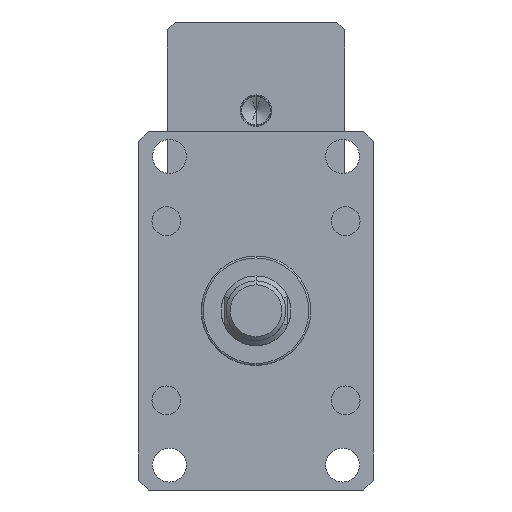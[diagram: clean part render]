
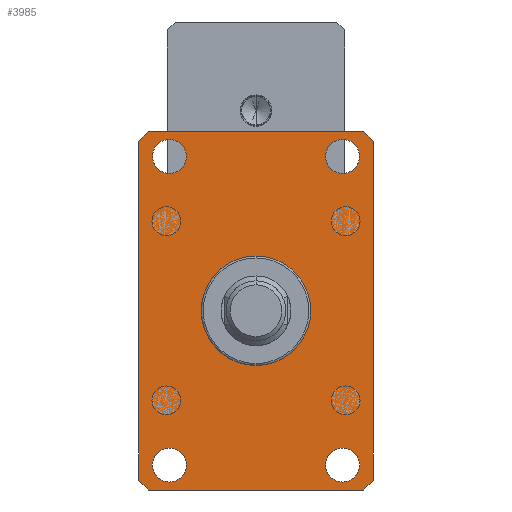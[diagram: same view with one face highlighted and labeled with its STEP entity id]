
A CAD part, front view. The second image highlights one B-rep face of the part: STEP entity #3985.
In plain terms, the highlighted planar face has unit normal (0, -1, 0).
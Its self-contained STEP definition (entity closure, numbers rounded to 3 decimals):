
#294 = CARTESIAN_POINT ( 'NONE',  ( 59., -55., 85. ) ) ;
#341 = VECTOR ( 'NONE', #6575, 1000. ) ;
#400 = FACE_BOUND ( 'NONE', #3310, .T. ) ;
#619 = DIRECTION ( 'NONE',  ( 0., 0., 1. ) ) ;
#774 = EDGE_CURVE ( 'NONE', #7395, #7995, #2491, .T. ) ;
#776 = VERTEX_POINT ( 'NONE', #2550 ) ;
#921 = EDGE_CURVE ( 'NONE', #8877, #776, #8723, .T. ) ;
#1125 = VECTOR ( 'NONE', #10446, 1000. ) ;
#1144 = EDGE_CURVE ( 'NONE', #2349, #8805, #4298, .T. ) ;
#1229 = ORIENTED_EDGE ( 'NONE', *, *, #1874, .T. ) ;
#1433 = DIRECTION ( 'NONE',  ( 0., 1., 0. ) ) ;
#1459 = CIRCLE ( 'NONE', #4853, 8.5 ) ;
#1578 = ORIENTED_EDGE ( 'NONE', *, *, #2112, .T. ) ;
#1617 = EDGE_CURVE ( 'NONE', #8733, #1827, #6604, .T. ) ;
#1778 = VECTOR ( 'NONE', #2406, 1000. ) ;
#1802 = EDGE_CURVE ( 'NONE', #776, #8877, #11882, .T. ) ;
#1827 = VERTEX_POINT ( 'NONE', #10290 ) ;
#1857 = EDGE_CURVE ( 'NONE', #8805, #2349, #1459, .T. ) ;
#1874 = EDGE_CURVE ( 'NONE', #1827, #8733, #11315, .T. ) ;
#1877 = CARTESIAN_POINT ( 'NONE',  ( 43.5, -55., 86. ) ) ;
#1924 = EDGE_CURVE ( 'NONE', #12249, #7543, #8348, .T. ) ;
#1995 = CARTESIAN_POINT ( 'NONE',  ( -43.5, -55., 86. ) ) ;
#1999 = EDGE_CURVE ( 'NONE', #7543, #12343, #12524, .T. ) ;
#2040 = EDGE_CURVE ( 'NONE', #12343, #11028, #4396, .T. ) ;
#2076 = EDGE_CURVE ( 'NONE', #11028, #11985, #3771, .T. ) ;
#2112 = EDGE_CURVE ( 'NONE', #11985, #9907, #11329, .T. ) ;
#2174 = EDGE_CURVE ( 'NONE', #9907, #5846, #10697, .T. ) ;
#2212 = EDGE_CURVE ( 'NONE', #5846, #2321, #4820, .T. ) ;
#2312 = ORIENTED_EDGE ( 'NONE', *, *, #1999, .T. ) ;
#2321 = VERTEX_POINT ( 'NONE', #6360 ) ;
#2349 = VERTEX_POINT ( 'NONE', #11312 ) ;
#2395 = CARTESIAN_POINT ( 'NONE',  ( -43.5, -55., -77.5 ) ) ;
#2406 = DIRECTION ( 'NONE',  ( 0., 0., 1. ) ) ;
#2449 = CARTESIAN_POINT ( 'NONE',  ( 43.5, -55., 77.5 ) ) ;
#2469 = EDGE_CURVE ( 'NONE', #2321, #12249, #3306, .T. ) ;
#2491 = CIRCLE ( 'NONE', #9638, 8.5 ) ;
#2524 = ORIENTED_EDGE ( 'NONE', *, *, #1924, .T. ) ;
#2550 = CARTESIAN_POINT ( 'NONE',  ( -43.5, -55., 69. ) ) ;
#2842 = DIRECTION ( 'NONE',  ( 0., 1., 0. ) ) ;
#2914 = EDGE_CURVE ( 'NONE', #7995, #7395, #7117, .T. ) ;
#2948 = ORIENTED_EDGE ( 'NONE', *, *, #1144, .T. ) ;
#3112 = CARTESIAN_POINT ( 'NONE',  ( 54., -55., -90. ) ) ;
#3306 = LINE ( 'NONE', #11512, #341 ) ;
#3310 = EDGE_LOOP ( 'NONE', ( #1229, #4495 ) ) ;
#3371 = DIRECTION ( 'NONE',  ( 0., 0., 1. ) ) ;
#3429 = DIRECTION ( 'NONE',  ( 0., 0., -1. ) ) ;
#3479 = VECTOR ( 'NONE', #9516, 1000. ) ;
#3729 = CARTESIAN_POINT ( 'NONE',  ( -59., -55., 85. ) ) ;
#3771 = LINE ( 'NONE', #7447, #1125 ) ;
#3845 = DIRECTION ( 'NONE',  ( 0., 0., -1. ) ) ;
#3917 = DIRECTION ( 'NONE',  ( 0., -1., 0. ) ) ;
#3985 = ADVANCED_FACE ( 'NONE', ( #10884, #5662, #400, #10602, #7918 ), #4358, .F. ) ;
#4094 = EDGE_LOOP ( 'NONE', ( #2524, #2312, #7800, #11073, #1578, #10648, #10013, #9705 ) ) ;
#4115 = CARTESIAN_POINT ( 'NONE',  ( 43.5, -55., -77.5 ) ) ;
#4117 = AXIS2_PLACEMENT_3D ( 'NONE', #9795, #3917, #10801 ) ;
#4298 = CIRCLE ( 'NONE', #5176, 8.5 ) ;
#4358 = PLANE ( 'NONE',  #5482 ) ;
#4396 = LINE ( 'NONE', #5301, #1778 ) ;
#4495 = ORIENTED_EDGE ( 'NONE', *, *, #1617, .T. ) ;
#4497 = DIRECTION ( 'NONE',  ( 0., -1., 0. ) ) ;
#4606 = CARTESIAN_POINT ( 'NONE',  ( -43.5, -55., -77.5 ) ) ;
#4672 = CARTESIAN_POINT ( 'NONE',  ( -43.5, -55., -86. ) ) ;
#4820 = LINE ( 'NONE', #9726, #5124 ) ;
#4853 = AXIS2_PLACEMENT_3D ( 'NONE', #12414, #6556, #619 ) ;
#4954 = EDGE_LOOP ( 'NONE', ( #10928, #6652 ) ) ;
#5120 = AXIS2_PLACEMENT_3D ( 'NONE', #2449, #9289, #3429 ) ;
#5124 = VECTOR ( 'NONE', #3845, 1000. ) ;
#5176 = AXIS2_PLACEMENT_3D ( 'NONE', #4115, #2842, #9697 ) ;
#5301 = CARTESIAN_POINT ( 'NONE',  ( 59., -55., 85. ) ) ;
#5326 = DIRECTION ( 'NONE',  ( 0., -1., 0. ) ) ;
#5451 = VECTOR ( 'NONE', #6678, 1000. ) ;
#5460 = CARTESIAN_POINT ( 'NONE',  ( 43.5, -55., 69. ) ) ;
#5482 = AXIS2_PLACEMENT_3D ( 'NONE', #7312, #1433, #8278 ) ;
#5546 = AXIS2_PLACEMENT_3D ( 'NONE', #4606, #11490, #5597 ) ;
#5597 = DIRECTION ( 'NONE',  ( 0., 0., 1. ) ) ;
#5662 = FACE_BOUND ( 'NONE', #10002, .T. ) ;
#5846 = VERTEX_POINT ( 'NONE', #10600 ) ;
#5857 = ORIENTED_EDGE ( 'NONE', *, *, #2914, .F. ) ;
#6000 = DIRECTION ( 'NONE',  ( 0.707, 0., 0.707 ) ) ;
#6042 = CARTESIAN_POINT ( 'NONE',  ( 54., -55., 90. ) ) ;
#6360 = CARTESIAN_POINT ( 'NONE',  ( -59., -55., -85. ) ) ;
#6556 = DIRECTION ( 'NONE',  ( 0., 1., 0. ) ) ;
#6575 = DIRECTION ( 'NONE',  ( 0.707, 0., -0.707 ) ) ;
#6604 = CIRCLE ( 'NONE', #7960, 8.5 ) ;
#6652 = ORIENTED_EDGE ( 'NONE', *, *, #1802, .F. ) ;
#6678 = DIRECTION ( 'NONE',  ( 1., 0., 0. ) ) ;
#6698 = DIRECTION ( 'NONE',  ( -0.707, 0., -0.707 ) ) ;
#6716 = CARTESIAN_POINT ( 'NONE',  ( -54., -55., 90. ) ) ;
#6879 = EDGE_LOOP ( 'NONE', ( #9053, #5857 ) ) ;
#7117 = CIRCLE ( 'NONE', #5120, 8.5 ) ;
#7312 = CARTESIAN_POINT ( 'NONE',  ( 59., -55., -90. ) ) ;
#7395 = VERTEX_POINT ( 'NONE', #1877 ) ;
#7447 = CARTESIAN_POINT ( 'NONE',  ( 54., -55., 90. ) ) ;
#7543 = VERTEX_POINT ( 'NONE', #3112 ) ;
#7800 = ORIENTED_EDGE ( 'NONE', *, *, #2040, .T. ) ;
#7918 = FACE_BOUND ( 'NONE', #6879, .T. ) ;
#7960 = AXIS2_PLACEMENT_3D ( 'NONE', #2395, #9240, #3371 ) ;
#7995 = VERTEX_POINT ( 'NONE', #5460 ) ;
#8027 = VECTOR ( 'NONE', #6698, 1000. ) ;
#8278 = DIRECTION ( 'NONE',  ( 0., 0., 1. ) ) ;
#8348 = LINE ( 'NONE', #11572, #5451 ) ;
#8723 = CIRCLE ( 'NONE', #4117, 8.5 ) ;
#8733 = VERTEX_POINT ( 'NONE', #4672 ) ;
#8805 = VERTEX_POINT ( 'NONE', #12636 ) ;
#8877 = VERTEX_POINT ( 'NONE', #1995 ) ;
#9053 = ORIENTED_EDGE ( 'NONE', *, *, #774, .F. ) ;
#9240 = DIRECTION ( 'NONE',  ( 0., 1., 0. ) ) ;
#9289 = DIRECTION ( 'NONE',  ( 0., -1., 0. ) ) ;
#9516 = DIRECTION ( 'NONE',  ( -1., 0., 0. ) ) ;
#9638 = AXIS2_PLACEMENT_3D ( 'NONE', #10402, #4497, #11385 ) ;
#9697 = DIRECTION ( 'NONE',  ( 0., 0., 1. ) ) ;
#9705 = ORIENTED_EDGE ( 'NONE', *, *, #2469, .T. ) ;
#9726 = CARTESIAN_POINT ( 'NONE',  ( -59., -55., 85. ) ) ;
#9795 = CARTESIAN_POINT ( 'NONE',  ( -43.5, -55., 77.5 ) ) ;
#9858 = ORIENTED_EDGE ( 'NONE', *, *, #1857, .T. ) ;
#9907 = VERTEX_POINT ( 'NONE', #6716 ) ;
#9912 = VECTOR ( 'NONE', #6000, 1000. ) ;
#10002 = EDGE_LOOP ( 'NONE', ( #9858, #2948 ) ) ;
#10013 = ORIENTED_EDGE ( 'NONE', *, *, #2212, .T. ) ;
#10290 = CARTESIAN_POINT ( 'NONE',  ( -43.5, -55., -69. ) ) ;
#10382 = CARTESIAN_POINT ( 'NONE',  ( -54., -55., -90. ) ) ;
#10402 = CARTESIAN_POINT ( 'NONE',  ( 43.5, -55., 77.5 ) ) ;
#10446 = DIRECTION ( 'NONE',  ( -0.707, 0., 0.707 ) ) ;
#10600 = CARTESIAN_POINT ( 'NONE',  ( -59., -55., 85. ) ) ;
#10602 = FACE_OUTER_BOUND ( 'NONE', #4094, .T. ) ;
#10648 = ORIENTED_EDGE ( 'NONE', *, *, #2174, .T. ) ;
#10697 = LINE ( 'NONE', #3729, #8027 ) ;
#10801 = DIRECTION ( 'NONE',  ( 0., 0., -1. ) ) ;
#10884 = FACE_BOUND ( 'NONE', #4954, .T. ) ;
#10928 = ORIENTED_EDGE ( 'NONE', *, *, #921, .F. ) ;
#11028 = VERTEX_POINT ( 'NONE', #294 ) ;
#11054 = AXIS2_PLACEMENT_3D ( 'NONE', #11243, #5326, #12211 ) ;
#11073 = ORIENTED_EDGE ( 'NONE', *, *, #2076, .T. ) ;
#11243 = CARTESIAN_POINT ( 'NONE',  ( -43.5, -55., 77.5 ) ) ;
#11312 = CARTESIAN_POINT ( 'NONE',  ( 43.5, -55., -86. ) ) ;
#11315 = CIRCLE ( 'NONE', #5546, 8.5 ) ;
#11329 = LINE ( 'NONE', #12436, #3479 ) ;
#11385 = DIRECTION ( 'NONE',  ( 0., 0., -1. ) ) ;
#11490 = DIRECTION ( 'NONE',  ( 0., 1., 0. ) ) ;
#11512 = CARTESIAN_POINT ( 'NONE',  ( -59., -55., -85. ) ) ;
#11565 = CARTESIAN_POINT ( 'NONE',  ( 59., -55., -85. ) ) ;
#11572 = CARTESIAN_POINT ( 'NONE',  ( -54., -55., -90. ) ) ;
#11836 = CARTESIAN_POINT ( 'NONE',  ( 54., -55., -90. ) ) ;
#11882 = CIRCLE ( 'NONE', #11054, 8.5 ) ;
#11985 = VERTEX_POINT ( 'NONE', #6042 ) ;
#12211 = DIRECTION ( 'NONE',  ( 0., 0., -1. ) ) ;
#12249 = VERTEX_POINT ( 'NONE', #10382 ) ;
#12343 = VERTEX_POINT ( 'NONE', #11565 ) ;
#12414 = CARTESIAN_POINT ( 'NONE',  ( 43.5, -55., -77.5 ) ) ;
#12436 = CARTESIAN_POINT ( 'NONE',  ( -54., -55., 90. ) ) ;
#12524 = LINE ( 'NONE', #11836, #9912 ) ;
#12636 = CARTESIAN_POINT ( 'NONE',  ( 43.5, -55., -69. ) ) ;
